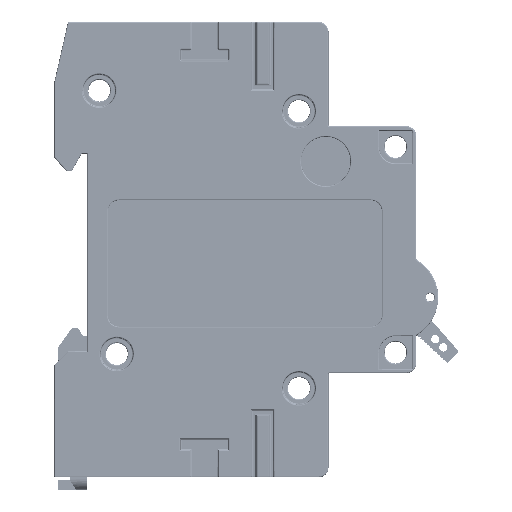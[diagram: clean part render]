
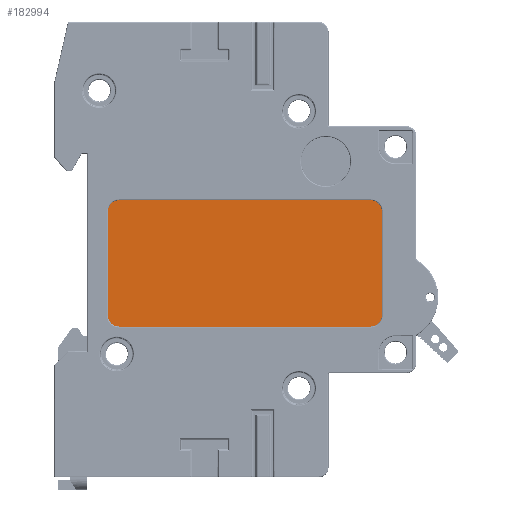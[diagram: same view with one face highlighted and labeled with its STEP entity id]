
A CAD part, front view. The second image highlights one B-rep face of the part: STEP entity #182994.
In plain terms, the highlighted planar face has unit normal (0, -1, 0).
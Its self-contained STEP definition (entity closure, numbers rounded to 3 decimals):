
#1567 = LINE ( 'NONE', #25903, #288824 ) ;
#2273 = DIRECTION ( 'NONE',  ( 0., 0., -1. ) ) ;
#14388 = VERTEX_POINT ( 'NONE', #68797 ) ;
#18486 = CARTESIAN_POINT ( 'NONE',  ( 57.7, 0., 50.3 ) ) ;
#21731 = AXIS2_PLACEMENT_3D ( 'NONE', #192509, #125343, #79569 ) ;
#22105 = CARTESIAN_POINT ( 'NONE',  ( 9.8, 0., 48.3 ) ) ;
#24644 = LINE ( 'NONE', #90238, #89238 ) ;
#25182 = CARTESIAN_POINT ( 'NONE',  ( 9.8, 0., 29.3 ) ) ;
#25263 = EDGE_CURVE ( 'NONE', #201579, #249347, #56225, .T. ) ;
#25903 = CARTESIAN_POINT ( 'NONE',  ( 57.7, 0., 50.3 ) ) ;
#36479 = ORIENTED_EDGE ( 'NONE', *, *, #212447, .T. ) ;
#44624 = EDGE_CURVE ( 'NONE', #249347, #279603, #1567, .T. ) ;
#49624 = ORIENTED_EDGE ( 'NONE', *, *, #253377, .T. ) ;
#55598 = PLANE ( 'NONE',  #163897 ) ;
#56225 = CIRCLE ( 'NONE', #110025, 2. ) ;
#68797 = CARTESIAN_POINT ( 'NONE',  ( 59.7, 0., 29.3 ) ) ;
#75281 = CIRCLE ( 'NONE', #21731, 2. ) ;
#78508 = DIRECTION ( 'NONE',  ( 0., -1., 0. ) ) ;
#79569 = DIRECTION ( 'NONE',  ( 0., 0., -1. ) ) ;
#81465 = DIRECTION ( 'NONE',  ( -1., 0., 0. ) ) ;
#82757 = AXIS2_PLACEMENT_3D ( 'NONE', #264577, #78508, #119755 ) ;
#83667 = CARTESIAN_POINT ( 'NONE',  ( 57.7, 0., 48.3 ) ) ;
#87545 = CIRCLE ( 'NONE', #82757, 2. ) ;
#89238 = VECTOR ( 'NONE', #187830, 1000. ) ;
#90238 = CARTESIAN_POINT ( 'NONE',  ( 59.7, 0., 48.3 ) ) ;
#109844 = ORIENTED_EDGE ( 'NONE', *, *, #297540, .T. ) ;
#110025 = AXIS2_PLACEMENT_3D ( 'NONE', #83667, #289600, #173716 ) ;
#119755 = DIRECTION ( 'NONE',  ( 0., 0., 1. ) ) ;
#121891 = CARTESIAN_POINT ( 'NONE',  ( 11.8, 0., 48.3 ) ) ;
#123559 = CARTESIAN_POINT ( 'NONE',  ( 57.7, 0., 27.3 ) ) ;
#124236 = FACE_OUTER_BOUND ( 'NONE', #261909, .T. ) ;
#125343 = DIRECTION ( 'NONE',  ( 0., -1., 0. ) ) ;
#137187 = CARTESIAN_POINT ( 'NONE',  ( 57.7, 0., 27.3 ) ) ;
#152445 = CIRCLE ( 'NONE', #221232, 2. ) ;
#158015 = EDGE_CURVE ( 'NONE', #279603, #273221, #152445, .T. ) ;
#163335 = DIRECTION ( 'NONE',  ( 1., 0., 0. ) ) ;
#163897 = AXIS2_PLACEMENT_3D ( 'NONE', #266017, #290383, #81465 ) ;
#171078 = ORIENTED_EDGE ( 'NONE', *, *, #177695, .T. ) ;
#173716 = DIRECTION ( 'NONE',  ( 0., 0., -1. ) ) ;
#177695 = EDGE_CURVE ( 'NONE', #14388, #201579, #24644, .T. ) ;
#182994 = ADVANCED_FACE ( 'NONE', ( #124236 ), #55598, .T. ) ;
#187830 = DIRECTION ( 'NONE',  ( 0., 0., 1. ) ) ;
#192219 = LINE ( 'NONE', #123559, #218177 ) ;
#192509 = CARTESIAN_POINT ( 'NONE',  ( 11.8, 0., 29.3 ) ) ;
#201579 = VERTEX_POINT ( 'NONE', #236186 ) ;
#202587 = ORIENTED_EDGE ( 'NONE', *, *, #25263, .T. ) ;
#206148 = ORIENTED_EDGE ( 'NONE', *, *, #232695, .T. ) ;
#209467 = CARTESIAN_POINT ( 'NONE',  ( 11.8, 0., 27.3 ) ) ;
#209666 = LINE ( 'NONE', #22105, #292612 ) ;
#212447 = EDGE_CURVE ( 'NONE', #246506, #269129, #192219, .T. ) ;
#218177 = VECTOR ( 'NONE', #163335, 1000. ) ;
#221232 = AXIS2_PLACEMENT_3D ( 'NONE', #121891, #280572, #234794 ) ;
#221635 = CARTESIAN_POINT ( 'NONE',  ( 11.8, 0., 50.3 ) ) ;
#230477 = ORIENTED_EDGE ( 'NONE', *, *, #44624, .T. ) ;
#232695 = EDGE_CURVE ( 'NONE', #269129, #14388, #87545, .T. ) ;
#234794 = DIRECTION ( 'NONE',  ( 0., 0., -1. ) ) ;
#236186 = CARTESIAN_POINT ( 'NONE',  ( 59.7, 0., 48.3 ) ) ;
#236408 = CARTESIAN_POINT ( 'NONE',  ( 9.8, 0., 48.3 ) ) ;
#246506 = VERTEX_POINT ( 'NONE', #209467 ) ;
#249347 = VERTEX_POINT ( 'NONE', #18486 ) ;
#253225 = DIRECTION ( 'NONE',  ( -1., 0., 0. ) ) ;
#253377 = EDGE_CURVE ( 'NONE', #301729, #246506, #75281, .T. ) ;
#261909 = EDGE_LOOP ( 'NONE', ( #206148, #171078, #202587, #230477, #297071, #109844, #49624, #36479 ) ) ;
#264577 = CARTESIAN_POINT ( 'NONE',  ( 57.7, 0., 29.3 ) ) ;
#266017 = CARTESIAN_POINT ( 'NONE',  ( 11.8, 0., 29.3 ) ) ;
#269129 = VERTEX_POINT ( 'NONE', #137187 ) ;
#273221 = VERTEX_POINT ( 'NONE', #236408 ) ;
#279603 = VERTEX_POINT ( 'NONE', #221635 ) ;
#280572 = DIRECTION ( 'NONE',  ( 0., -1., 0. ) ) ;
#288824 = VECTOR ( 'NONE', #253225, 1000. ) ;
#289600 = DIRECTION ( 'NONE',  ( 0., -1., 0. ) ) ;
#290383 = DIRECTION ( 'NONE',  ( 0., -1., 0. ) ) ;
#292612 = VECTOR ( 'NONE', #2273, 1000. ) ;
#297071 = ORIENTED_EDGE ( 'NONE', *, *, #158015, .T. ) ;
#297540 = EDGE_CURVE ( 'NONE', #273221, #301729, #209666, .T. ) ;
#301729 = VERTEX_POINT ( 'NONE', #25182 ) ;
